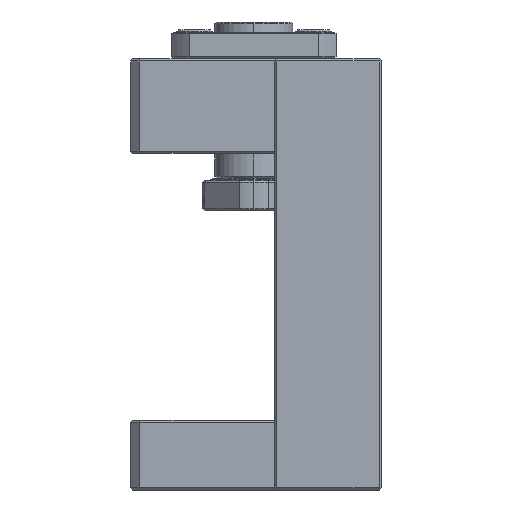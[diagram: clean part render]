
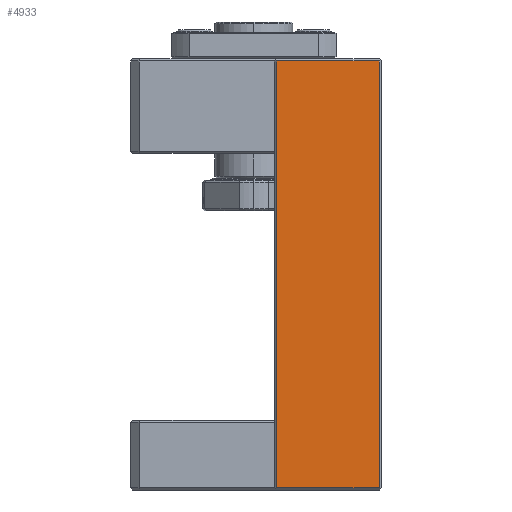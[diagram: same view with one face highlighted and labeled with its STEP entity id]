
A CAD part, left-side view. The second image highlights one B-rep face of the part: STEP entity #4933.
In plain terms, the highlighted planar face has unit normal (-1, 0, 0).
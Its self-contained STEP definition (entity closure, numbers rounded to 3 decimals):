
#4498 = ORIENTED_EDGE ( 'NONE', *, *, #5002, .T. ) ;
#4933 = ADVANCED_FACE ( 'NONE', ( #10304 ), #10303, .T. ) ;
#4934 = EDGE_LOOP ( 'NONE', ( #4935, #4939, #4498, #5004 ) ) ;
#4935 = ORIENTED_EDGE ( 'NONE', *, *, #4936, .T. ) ;
#4936 = EDGE_CURVE ( 'NONE', #4937, #4938, #10298, .T. ) ;
#4937 = VERTEX_POINT ( 'NONE', #10294 ) ;
#4938 = VERTEX_POINT ( 'NONE', #10293 ) ;
#4939 = ORIENTED_EDGE ( 'NONE', *, *, #4940, .T. ) ;
#4940 = EDGE_CURVE ( 'NONE', #4938, #4941, #10292, .T. ) ;
#4941 = VERTEX_POINT ( 'NONE', #10288 ) ;
#5002 = EDGE_CURVE ( 'NONE', #4941, #5003, #10377, .T. ) ;
#5003 = VERTEX_POINT ( 'NONE', #10373 ) ;
#5004 = ORIENTED_EDGE ( 'NONE', *, *, #5005, .T. ) ;
#5005 = EDGE_CURVE ( 'NONE', #5003, #4937, #10372, .T. ) ;
#10288 = CARTESIAN_POINT ( 'NONE',  ( 0., 25.5, -104.5 ) ) ;
#10289 = DIRECTION ( 'NONE',  ( 0., 0., -1. ) ) ;
#10290 = VECTOR ( 'NONE', #10289, 1000. ) ;
#10291 = CARTESIAN_POINT ( 'NONE',  ( 0., 25.5, -105. ) ) ;
#10292 = LINE ( 'NONE', #10291, #10290 ) ;
#10293 = CARTESIAN_POINT ( 'NONE',  ( 0., 25.5, -0.5 ) ) ;
#10294 = CARTESIAN_POINT ( 'NONE',  ( 0., 0.5, -0.5 ) ) ;
#10295 = DIRECTION ( 'NONE',  ( 0., 1., 0. ) ) ;
#10296 = VECTOR ( 'NONE', #10295, 1000. ) ;
#10297 = CARTESIAN_POINT ( 'NONE',  ( 0., 26., -0.5 ) ) ;
#10298 = LINE ( 'NONE', #10297, #10296 ) ;
#10299 = DIRECTION ( 'NONE',  ( 0., -1., 0. ) ) ;
#10300 = DIRECTION ( 'NONE',  ( -1., 0., 0. ) ) ;
#10301 = CARTESIAN_POINT ( 'NONE',  ( 0., 26., -105. ) ) ;
#10302 = AXIS2_PLACEMENT_3D ( 'NONE', #10301, #10300, #10299 ) ;
#10303 = PLANE ( 'NONE',  #10302 ) ;
#10304 = FACE_OUTER_BOUND ( 'NONE', #4934, .T. ) ;
#10369 = DIRECTION ( 'NONE',  ( 0., 0., 1. ) ) ;
#10370 = VECTOR ( 'NONE', #10369, 1000. ) ;
#10371 = CARTESIAN_POINT ( 'NONE',  ( 0., 0.5, -105. ) ) ;
#10372 = LINE ( 'NONE', #10371, #10370 ) ;
#10373 = CARTESIAN_POINT ( 'NONE',  ( 0., 0.5, -104.5 ) ) ;
#10374 = DIRECTION ( 'NONE',  ( 0., -1., 0. ) ) ;
#10375 = VECTOR ( 'NONE', #10374, 1000. ) ;
#10376 = CARTESIAN_POINT ( 'NONE',  ( 0., 0., -104.5 ) ) ;
#10377 = LINE ( 'NONE', #10376, #10375 ) ;
